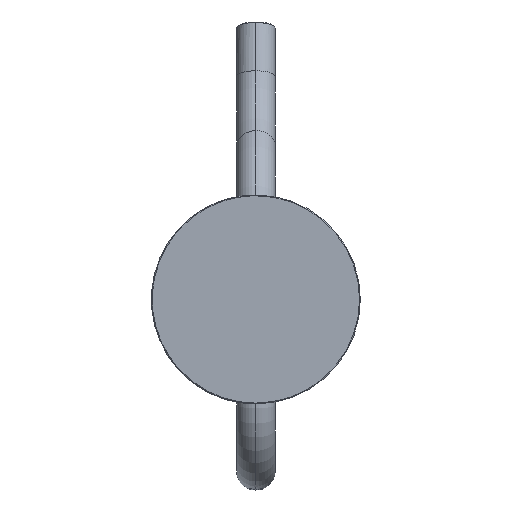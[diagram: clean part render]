
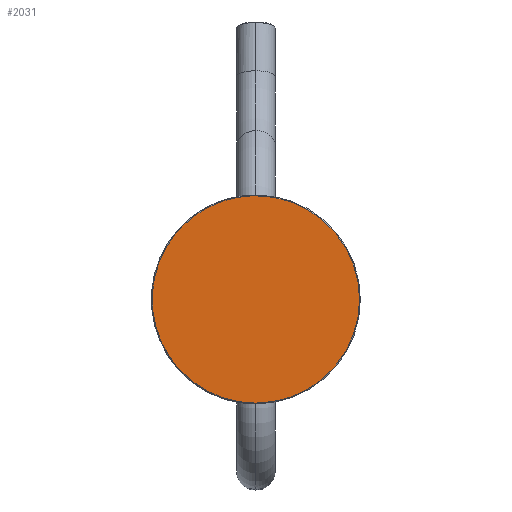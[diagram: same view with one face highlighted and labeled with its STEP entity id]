
A CAD part, front view. The second image highlights one B-rep face of the part: STEP entity #2031.
In plain terms, the highlighted planar face has unit normal (0, -1, 0).
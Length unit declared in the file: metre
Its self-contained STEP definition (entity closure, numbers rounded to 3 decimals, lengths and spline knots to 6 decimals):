
#20=EDGE_CURVE('',#21,#23,#25,.F.);
#21=VERTEX_POINT('',#22);
#22=CARTESIAN_POINT('',(0.0,0.0,-0.0263));
#23=VERTEX_POINT('',#24);
#24=CARTESIAN_POINT('',(0.0,0.0,0.0263));
#25=CIRCLE('',#26,0.0263);
#26=AXIS2_PLACEMENT_3D('',#27,#28,#29);
#27=CARTESIAN_POINT('',(0.0,0.0,0.0));
#28=DIRECTION('',(0.0,1.0,0.0));
#29=DIRECTION('',(0.0,0.0,1.0));
#2031=ADVANCED_FACE('',(#2037),#2032,.F.);
#2032=PLANE('',#2033);
#2033=AXIS2_PLACEMENT_3D('',#2034,#2035,#2036);
#2034=CARTESIAN_POINT('',(0.0,0.0,0.0265));
#2035=DIRECTION('',(0.0,1.0,0.0));
#2036=DIRECTION('',(0.0,0.0,1.0));
#2037=FACE_OUTER_BOUND('',#2038,.T.);
#2038=EDGE_LOOP('',(#2039,#2047));
#2039=ORIENTED_EDGE('',*,*,#2041,.T.);
#2040=CARTESIAN_POINT('',(0.0,0.0,-0.0263));
#2041=EDGE_CURVE('',#23,#21,#2042,.F.);
#2042=(B_SPLINE_CURVE(3,(#2040,#2043,#2044,#2045),.UNSPECIFIED.,.F.,.U.)B_SPLINE_CURVE_WITH_KNOTS(
  (4,4),(0.0,1.0),.UNSPECIFIED.)BOUNDED_CURVE()CURVE()GEOMETRIC_REPRESENTATION_ITEM(
  )RATIONAL_B_SPLINE_CURVE((1.0,0.333,0.333,1.0)
  )REPRESENTATION_ITEM(''));
#2043=CARTESIAN_POINT('',(-0.0526,0.0,-0.0263));
#2044=CARTESIAN_POINT('',(-0.0526,0.0,0.0263));
#2045=CARTESIAN_POINT('',(0.0,0.0,0.0263));
#2047=ORIENTED_EDGE('',*,*,#20,.T.);
